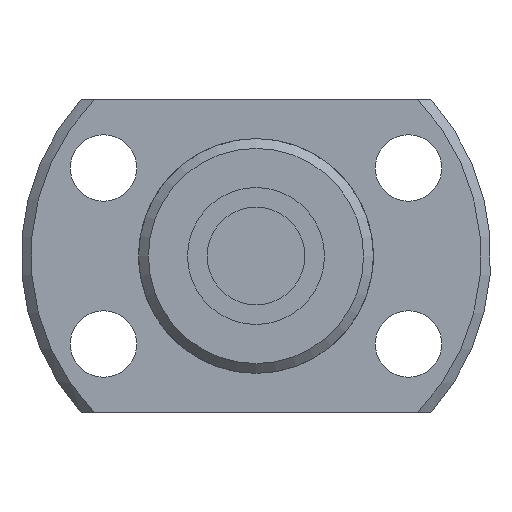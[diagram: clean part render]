
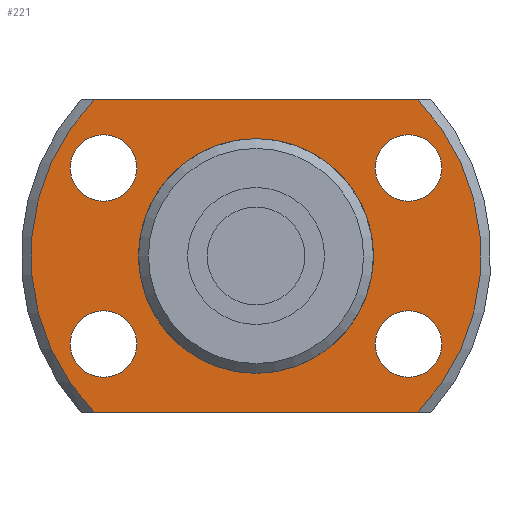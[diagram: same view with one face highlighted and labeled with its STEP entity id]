
A CAD part, left-side view. The second image highlights one B-rep face of the part: STEP entity #221.
In plain terms, the highlighted planar face has unit normal (-1, 0, 0).
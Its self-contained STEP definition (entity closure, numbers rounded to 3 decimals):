
#221 = ADVANCED_FACE( '', ( #354, #355, #356, #357, #358, #359 ), #360, .F. );
#354 = FACE_OUTER_BOUND( '', #501, .T. );
#355 = FACE_BOUND( '', #502, .T. );
#356 = FACE_BOUND( '', #503, .T. );
#357 = FACE_BOUND( '', #504, .T. );
#358 = FACE_BOUND( '', #505, .T. );
#359 = FACE_BOUND( '', #506, .T. );
#360 = PLANE( '', #507 );
#501 = EDGE_LOOP( '', ( #903, #904, #905, #906 ) );
#502 = EDGE_LOOP( '', ( #907 ) );
#503 = EDGE_LOOP( '', ( #908 ) );
#504 = EDGE_LOOP( '', ( #909 ) );
#505 = EDGE_LOOP( '', ( #910 ) );
#506 = EDGE_LOOP( '', ( #911 ) );
#507 = AXIS2_PLACEMENT_3D( '', #912, #913, #914 );
#903 = ORIENTED_EDGE( '', *, *, #984, .F. );
#904 = ORIENTED_EDGE( '', *, *, #1068, .T. );
#905 = ORIENTED_EDGE( '', *, *, #1062, .F. );
#906 = ORIENTED_EDGE( '', *, *, #978, .T. );
#907 = ORIENTED_EDGE( '', *, *, #1028, .T. );
#908 = ORIENTED_EDGE( '', *, *, #1026, .T. );
#909 = ORIENTED_EDGE( '', *, *, #1024, .T. );
#910 = ORIENTED_EDGE( '', *, *, #1022, .T. );
#911 = ORIENTED_EDGE( '', *, *, #1064, .T. );
#912 = CARTESIAN_POINT( '', ( 18., 5.75, 0. ) );
#913 = DIRECTION( '', ( 1., 0., 0. ) );
#914 = DIRECTION( '', ( 0., 0., -1. ) );
#978 = EDGE_CURVE( '', #1129, #1127, #1130, .T. );
#984 = EDGE_CURVE( '', #1140, #1127, #1141, .T. );
#1022 = EDGE_CURVE( '', #1208, #1208, #1209, .T. );
#1024 = EDGE_CURVE( '', #1212, #1212, #1213, .T. );
#1026 = EDGE_CURVE( '', #1216, #1216, #1217, .T. );
#1028 = EDGE_CURVE( '', #1220, #1220, #1221, .T. );
#1062 = EDGE_CURVE( '', #1129, #1273, #1274, .T. );
#1064 = EDGE_CURVE( '', #1276, #1276, #1277, .T. );
#1068 = EDGE_CURVE( '', #1140, #1273, #1282, .T. );
#1127 = VERTEX_POINT( '', #1400 );
#1129 = VERTEX_POINT( '', #1405 );
#1130 = LINE( '', #1406, #1407 );
#1140 = VERTEX_POINT( '', #1428 );
#1141 = CIRCLE( '', #1429, 11.5 );
#1208 = VERTEX_POINT( '', #1535 );
#1209 = CIRCLE( '', #1536, 1.7 );
#1212 = VERTEX_POINT( '', #1539 );
#1213 = CIRCLE( '', #1540, 1.7 );
#1216 = VERTEX_POINT( '', #1543 );
#1217 = CIRCLE( '', #1544, 1.7 );
#1220 = VERTEX_POINT( '', #1547 );
#1221 = CIRCLE( '', #1548, 1.7 );
#1273 = VERTEX_POINT( '', #1621 );
#1274 = CIRCLE( '', #1622, 11.5 );
#1276 = VERTEX_POINT( '', #1627 );
#1277 = CIRCLE( '', #1628, 5.75 );
#1282 = LINE( '', #1633, #1634 );
#1400 = CARTESIAN_POINT( '', ( 18., 8.261, 8. ) );
#1405 = CARTESIAN_POINT( '', ( 18., -8.261, 8. ) );
#1406 = CARTESIAN_POINT( '', ( 18., 5.75, 8. ) );
#1407 = VECTOR( '', #1688, 1000. );
#1428 = CARTESIAN_POINT( '', ( 18., 8.261, -8. ) );
#1429 = AXIS2_PLACEMENT_3D( '', #1691, #1692, #1693 );
#1535 = CARTESIAN_POINT( '', ( 18., 7.794, 2.8 ) );
#1536 = AXIS2_PLACEMENT_3D( '', #1754, #1755, #1756 );
#1539 = CARTESIAN_POINT( '', ( 18., 7.794, -6.2 ) );
#1540 = AXIS2_PLACEMENT_3D( '', #1760, #1761, #1762 );
#1543 = CARTESIAN_POINT( '', ( 18., -7.794, -6.2 ) );
#1544 = AXIS2_PLACEMENT_3D( '', #1766, #1767, #1768 );
#1547 = CARTESIAN_POINT( '', ( 18., -7.794, 2.8 ) );
#1548 = AXIS2_PLACEMENT_3D( '', #1772, #1773, #1774 );
#1621 = CARTESIAN_POINT( '', ( 18., -8.261, -8. ) );
#1622 = AXIS2_PLACEMENT_3D( '', #1838, #1839, #1840 );
#1627 = CARTESIAN_POINT( '', ( 18., 0., -5.75 ) );
#1628 = AXIS2_PLACEMENT_3D( '', #1841, #1842, #1843 );
#1633 = CARTESIAN_POINT( '', ( 18., 5.75, -8. ) );
#1634 = VECTOR( '', #1853, 1000. );
#1688 = DIRECTION( '', ( 0., 1., 0. ) );
#1691 = CARTESIAN_POINT( '', ( 18., 0., 0. ) );
#1692 = DIRECTION( '', ( 1., 0., 0. ) );
#1693 = DIRECTION( '', ( 0., 0., -1. ) );
#1754 = CARTESIAN_POINT( '', ( 18., 7.794, 4.5 ) );
#1755 = DIRECTION( '', ( 1., 0., 0. ) );
#1756 = DIRECTION( '', ( 0., 0., -1. ) );
#1760 = CARTESIAN_POINT( '', ( 18., 7.794, -4.5 ) );
#1761 = DIRECTION( '', ( 1., 0., 0. ) );
#1762 = DIRECTION( '', ( 0., 0., -1. ) );
#1766 = CARTESIAN_POINT( '', ( 18., -7.794, -4.5 ) );
#1767 = DIRECTION( '', ( 1., 0., 0. ) );
#1768 = DIRECTION( '', ( 0., 0., -1. ) );
#1772 = CARTESIAN_POINT( '', ( 18., -7.794, 4.5 ) );
#1773 = DIRECTION( '', ( 1., 0., 0. ) );
#1774 = DIRECTION( '', ( 0., 0., -1. ) );
#1838 = CARTESIAN_POINT( '', ( 18., 0., 0. ) );
#1839 = DIRECTION( '', ( 1., 0., 0. ) );
#1840 = DIRECTION( '', ( 0., 0., -1. ) );
#1841 = CARTESIAN_POINT( '', ( 18., 0., 0. ) );
#1842 = DIRECTION( '', ( 1., 0., 0. ) );
#1843 = DIRECTION( '', ( 0., 0., -1. ) );
#1853 = DIRECTION( '', ( 0., -1., 0. ) );
